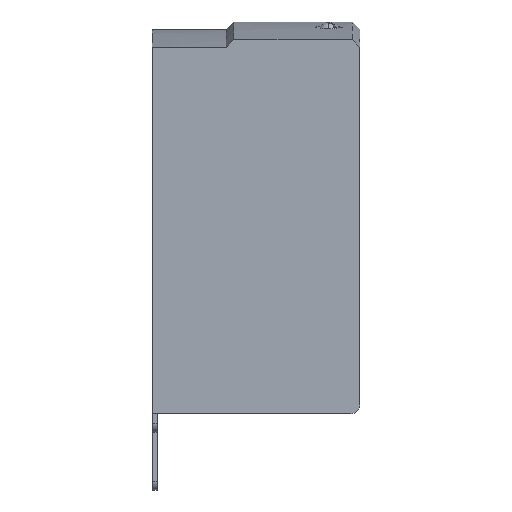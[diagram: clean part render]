
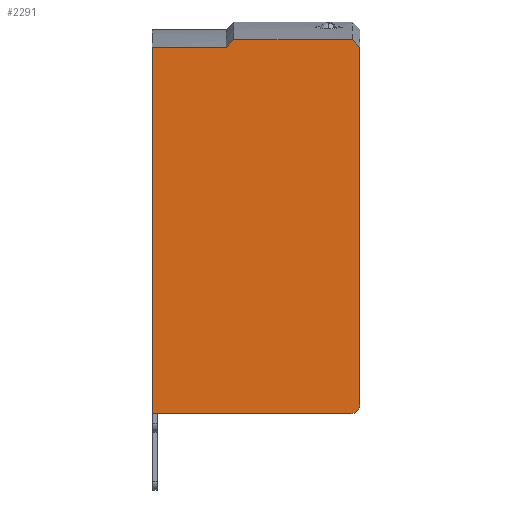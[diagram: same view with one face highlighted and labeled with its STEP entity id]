
A CAD part, left-side view. The second image highlights one B-rep face of the part: STEP entity #2291.
In plain terms, the highlighted planar face has unit normal (-1, 0, 0) as drawn and (1, 0, 0) by its records, which use the part's own axes.
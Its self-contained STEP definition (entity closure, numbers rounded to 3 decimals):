
#105 = EDGE_CURVE ( 'NONE', #6668, #8521, #2524, .T. ) ;
#172 = ORIENTED_EDGE ( 'NONE', *, *, #4823, .T. ) ;
#556 = CARTESIAN_POINT ( 'NONE',  ( 125., 0., 0. ) ) ;
#675 = ORIENTED_EDGE ( 'NONE', *, *, #8286, .F. ) ;
#721 = VECTOR ( 'NONE', #8043, 1000. ) ;
#723 = EDGE_LOOP ( 'NONE', ( #854, #1773, #172, #2145, #675, #3166, #6657, #1149 ) ) ;
#725 = DIRECTION ( 'NONE',  ( 0., 0., -1. ) ) ;
#756 = VERTEX_POINT ( 'NONE', #1951 ) ;
#764 = LINE ( 'NONE', #7300, #721 ) ;
#833 = LINE ( 'NONE', #556, #7175 ) ;
#854 = ORIENTED_EDGE ( 'NONE', *, *, #3068, .T. ) ;
#1149 = ORIENTED_EDGE ( 'NONE', *, *, #4378, .T. ) ;
#1226 = CARTESIAN_POINT ( 'NONE',  ( 125., 3., 0. ) ) ;
#1247 = CARTESIAN_POINT ( 'NONE',  ( 125., 42.5, -126. ) ) ;
#1275 = LINE ( 'NONE', #5429, #1398 ) ;
#1398 = VECTOR ( 'NONE', #2536, 1000. ) ;
#1472 = CARTESIAN_POINT ( 'NONE',  ( 125., 44.972, -123.5 ) ) ;
#1515 = PLANE ( 'NONE',  #3957 ) ;
#1583 = LINE ( 'NONE', #5606, #3636 ) ;
#1597 = CARTESIAN_POINT ( 'NONE',  ( 125., 43.324, -125.167 ) ) ;
#1773 = ORIENTED_EDGE ( 'NONE', *, *, #5380, .T. ) ;
#1873 = VERTEX_POINT ( 'NONE', #6440 ) ;
#1951 = CARTESIAN_POINT ( 'NONE',  ( 125., 70., -123.5 ) ) ;
#2001 = LINE ( 'NONE', #8679, #4667 ) ;
#2081 = CARTESIAN_POINT ( 'NONE',  ( 125., 2.5, -126. ) ) ;
#2145 = ORIENTED_EDGE ( 'NONE', *, *, #4355, .T. ) ;
#2291 = ADVANCED_FACE ( 'NONE', ( #2421 ), #1515, .T. ) ;
#2311 = DIRECTION ( 'NONE',  ( 1., 0., 0. ) ) ;
#2421 = FACE_OUTER_BOUND ( 'NONE', #723, .T. ) ;
#2479 = CARTESIAN_POINT ( 'NONE',  ( 125., 44.148, -124.333 ) ) ;
#2524 = B_SPLINE_CURVE_WITH_KNOTS ( 'NONE', 3,
 ( #5104, #1597, #2479, #1472 ),
 .UNSPECIFIED., .F., .F.,
 ( 4, 4 ),
 ( 0., 0.004 ),
 .UNSPECIFIED. ) ;
#2536 = DIRECTION ( 'NONE',  ( 0., 1., 0. ) ) ;
#2652 = EDGE_CURVE ( 'NONE', #8521, #756, #1275, .T. ) ;
#2800 = DIRECTION ( 'NONE',  ( 0., 0., -1. ) ) ;
#3068 = EDGE_CURVE ( 'NONE', #1873, #3550, #1583, .T. ) ;
#3138 = B_SPLINE_CURVE_WITH_KNOTS ( 'NONE', 3,
 ( #9423, #3476, #7896, #4968 ),
 .UNSPECIFIED., .F., .F.,
 ( 4, 4 ),
 ( 0., 0.004 ),
 .UNSPECIFIED. ) ;
#3166 = ORIENTED_EDGE ( 'NONE', *, *, #105, .T. ) ;
#3476 = CARTESIAN_POINT ( 'NONE',  ( 125., 0.833, -124.314 ) ) ;
#3550 = VERTEX_POINT ( 'NONE', #1226 ) ;
#3570 = VERTEX_POINT ( 'NONE', #5720 ) ;
#3636 = VECTOR ( 'NONE', #4118, 1000. ) ;
#3756 = AXIS2_PLACEMENT_3D ( 'NONE', #6723, #2311, #7477 ) ;
#3957 = AXIS2_PLACEMENT_3D ( 'NONE', #7479, #5922, #725 ) ;
#4118 = DIRECTION ( 'NONE',  ( 0., -1., 0. ) ) ;
#4355 = EDGE_CURVE ( 'NONE', #8248, #8227, #3138, .T. ) ;
#4378 = EDGE_CURVE ( 'NONE', #756, #1873, #2001, .T. ) ;
#4667 = VECTOR ( 'NONE', #9457, 1000. ) ;
#4823 = EDGE_CURVE ( 'NONE', #3570, #8248, #833, .T. ) ;
#4968 = CARTESIAN_POINT ( 'NONE',  ( 125., 2.5, -126. ) ) ;
#5104 = CARTESIAN_POINT ( 'NONE',  ( 125., 42.5, -126. ) ) ;
#5380 = EDGE_CURVE ( 'NONE', #3550, #3570, #8549, .T. ) ;
#5429 = CARTESIAN_POINT ( 'NONE',  ( 125., -80.144, -123.5 ) ) ;
#5606 = CARTESIAN_POINT ( 'NONE',  ( 125., 0., 0. ) ) ;
#5720 = CARTESIAN_POINT ( 'NONE',  ( 125., 0., -3. ) ) ;
#5922 = DIRECTION ( 'NONE',  ( 1., 0., 0. ) ) ;
#6440 = CARTESIAN_POINT ( 'NONE',  ( 125., 70., 0. ) ) ;
#6524 = CARTESIAN_POINT ( 'NONE',  ( 125., 0., -123.471 ) ) ;
#6657 = ORIENTED_EDGE ( 'NONE', *, *, #2652, .T. ) ;
#6668 = VERTEX_POINT ( 'NONE', #1247 ) ;
#6723 = CARTESIAN_POINT ( 'NONE',  ( 125., 3., -3. ) ) ;
#7175 = VECTOR ( 'NONE', #2800, 1000. ) ;
#7300 = CARTESIAN_POINT ( 'NONE',  ( 125., 70., -126. ) ) ;
#7477 = DIRECTION ( 'NONE',  ( 0., 0., -1. ) ) ;
#7479 = CARTESIAN_POINT ( 'NONE',  ( 125., 0., 0. ) ) ;
#7580 = CARTESIAN_POINT ( 'NONE',  ( 125., 44.972, -123.5 ) ) ;
#7896 = CARTESIAN_POINT ( 'NONE',  ( 125., 1.667, -125.157 ) ) ;
#8043 = DIRECTION ( 'NONE',  ( 0., -1., 0. ) ) ;
#8227 = VERTEX_POINT ( 'NONE', #2081 ) ;
#8248 = VERTEX_POINT ( 'NONE', #6524 ) ;
#8286 = EDGE_CURVE ( 'NONE', #6668, #8227, #764, .T. ) ;
#8521 = VERTEX_POINT ( 'NONE', #7580 ) ;
#8549 = CIRCLE ( 'NONE', #3756, 3. ) ;
#8679 = CARTESIAN_POINT ( 'NONE',  ( 125., 70., 0. ) ) ;
#9423 = CARTESIAN_POINT ( 'NONE',  ( 125., 0., -123.471 ) ) ;
#9457 = DIRECTION ( 'NONE',  ( 0., 0., 1. ) ) ;
